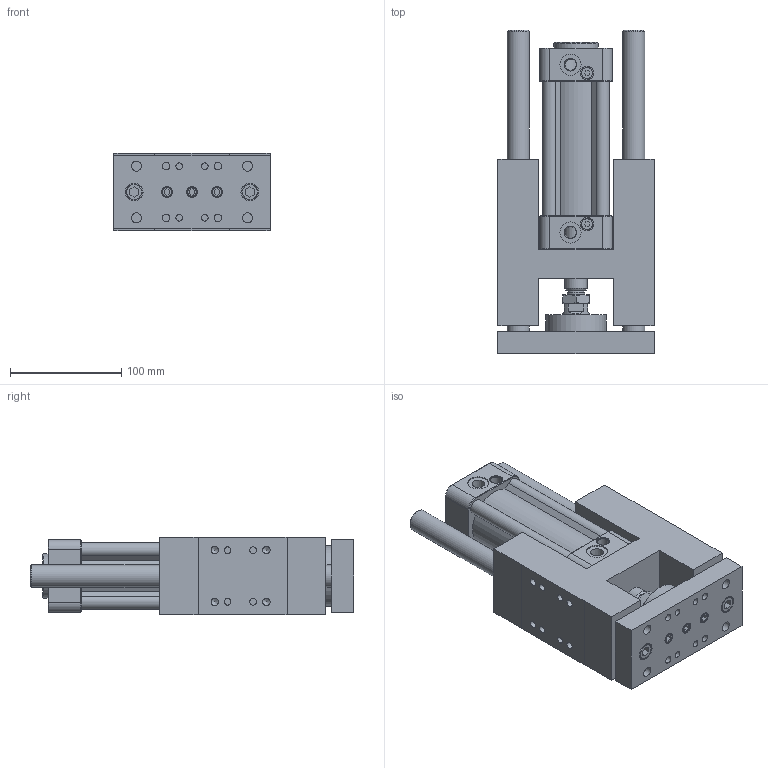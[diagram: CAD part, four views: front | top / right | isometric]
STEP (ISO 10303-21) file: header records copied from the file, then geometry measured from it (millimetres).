
FILE_DESCRIPTION((''),'2;1');
FILE_NAME('I:\3D電子目錄\氣缸\GHB(U)\GHB(U)\GHB(U)50\GHB(U)50X75.stp','2007-10-19T16:37:40',('Administrator'),(''),'Autodesk Inventor 11','Autodesk Inventor 11','');
FILE_SCHEMA(('AUTOMOTIVE_DESIGN { 1 0 10303 214 1 1 1 1 }'));
Length unit declared in the file: millimetre
Products named in the file (1): GHB(U)50
Bounding box: 141 x 291 x 70 mm (x, y, z)
Volume: 1459686.9 mm3; surface area: 273085.1 mm2
Topology: 1 solids, 13 shells, 779 faces, 1736 edges, 1075 vertices
Faces by surface type: plane 299, bspline 222, cylinder 163, cone 88, torus 7
Full cylindrical faces by diameter (mm): 2.5 x2, 6 x8, 6.647 x4, 6.7 x2, 6.75 x4, 7.25 x2, 7.4 x4, 7.5 x2, 8.5 x9, 9 x2, 9.8 x4, 10 x5, 11.5 x1, 11.9 x1, 12 x3, 13 x4, 14 x8, 14.5 x2, 16 x3, 19 x2, 20 x4, 23 x1, 25 x1, 26 x2, 40 x1, 50 x1, 54 x1
Entity records: 22633 total; most frequent: CARTESIAN_POINT 7068, DIRECTION 3100, ORIENTED_EDGE 3020, EDGE_CURVE 1510, AXIS2_PLACEMENT_3D 1202, EDGE_LOOP 1071, VERTEX_POINT 1029, FACE_OUTER_BOUND 778
